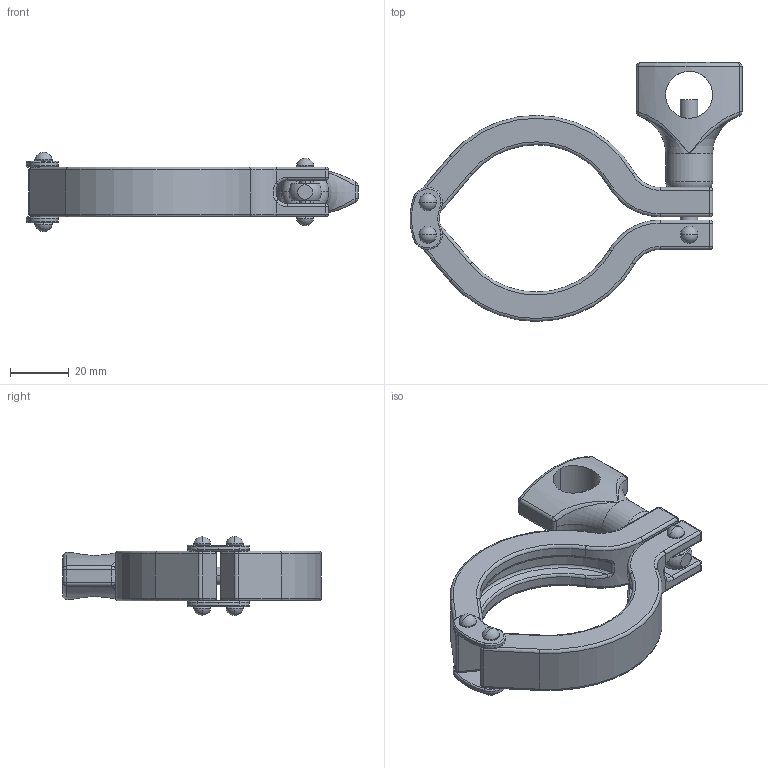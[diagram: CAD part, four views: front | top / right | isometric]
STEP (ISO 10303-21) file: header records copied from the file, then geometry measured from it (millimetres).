
FILE_DESCRIPTION (( 'STEP AP203' ), '1' );
FILE_NAME ('13MHHMD2.0-H.STEP', '2022-06-07T02:51:16', ( '' ), ( '' ), 'SwSTEP 2.0', 'SolidWorks 2014', '' );
FILE_SCHEMA (( 'CONFIG_CONTROL_DESIGN' ));
Length unit declared in the file: millimetre
Products named in the file (10): 13MHHD2.0-2; 13MHHD-2; Wing Nut 14; 13MHHD-PARTS-1; 13MHHM-PART-4; 13MHHD-PARTS-2; 13MHHD2.0-1; 13MHHD-PARTS; 13MHHD-PARTS-3; 13MHHMD2.0-H
Assembly tree (12 placements, depth 2):
  13MHHMD2.0-H
    13MHHD2.0-1
    13MHHD-PARTS  x2
    13MHHD-PARTS-1  x2
    13MHHD-PARTS-2
    13MHHD-PARTS-3
    13MHHM-PART-4
    13MHHD-2  x2
    13MHHD2.0-2
    Wing Nut 14
Bounding box: 112.99 x 88.14 x 27 mm (x, y, z)
Volume: 46838.5 mm3; surface area: 22466.7 mm2
Topology: 12 solids, 12 shells, 390 faces, 896 edges, 504 vertices
Faces by surface type: cylinder 138, torus 95, plane 57, bspline 50, sphere 46, cone 4
Entity records: 12819 total; most frequent: CARTESIAN_POINT 4111, DIRECTION 1737, ORIENTED_EDGE 1520, AXIS2_PLACEMENT_3D 770, EDGE_CURVE 760, CIRCLE 458, VERTEX_POINT 436, EDGE_LOOP 370
